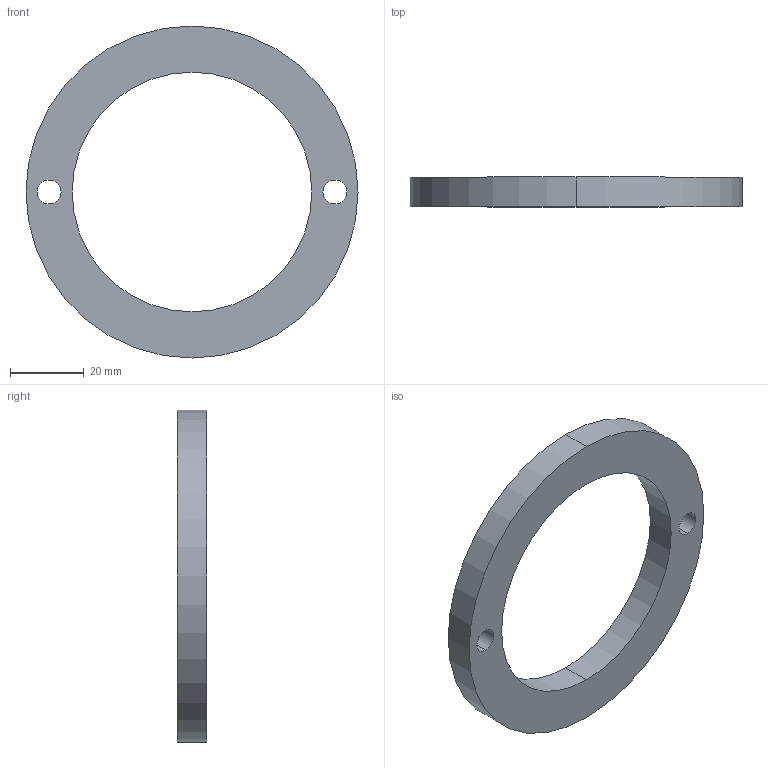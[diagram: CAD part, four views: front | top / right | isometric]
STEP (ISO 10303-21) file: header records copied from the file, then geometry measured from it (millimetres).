
FILE_DESCRIPTION (( 'STEP AP214' ), '1' );
FILE_NAME ('BRDCO-090.STEP', '2020-02-05T09:08:26', ( 'August' ), ( '' ), 'SwSTEP 2.0', 'SolidWorks 2018', '' );
FILE_SCHEMA (( 'AUTOMOTIVE_DESIGN' ));
Length unit declared in the file: millimetre
Products named in the file (1): BRDCO-090
Bounding box: 90 x 8 x 90 mm (x, y, z)
Volume: 23816.4 mm3; surface area: 10176.4 mm2
Topology: 1 solids, 1 shells, 10 faces, 24 edges, 16 vertices
Faces by surface type: cylinder 8, plane 2
Entity records: 350 total; most frequent: DIRECTION 62, CARTESIAN_POINT 51, ORIENTED_EDGE 48, AXIS2_PLACEMENT_3D 27, EDGE_CURVE 24, EDGE_LOOP 16, CIRCLE 16, VERTEX_POINT 16
